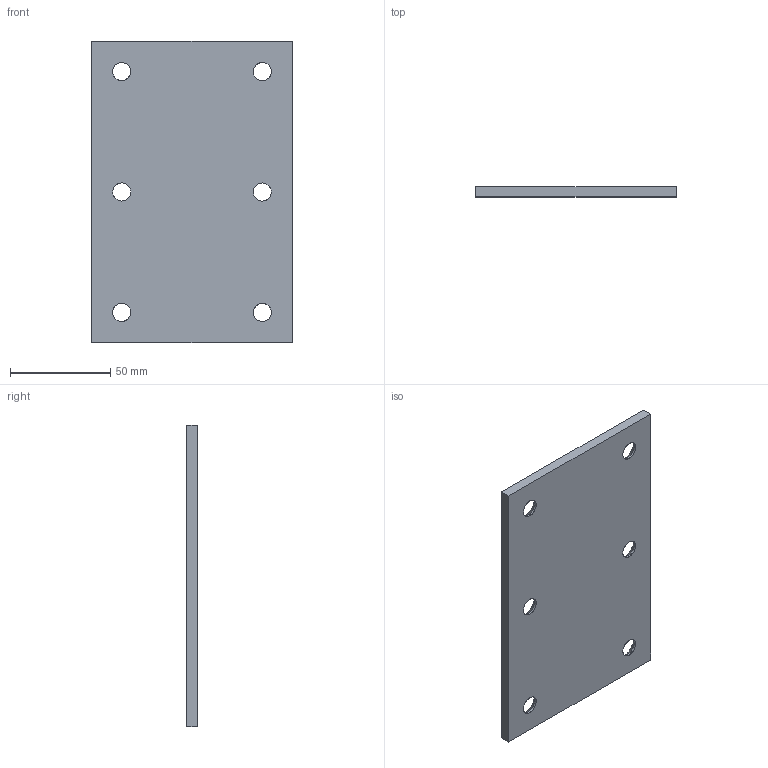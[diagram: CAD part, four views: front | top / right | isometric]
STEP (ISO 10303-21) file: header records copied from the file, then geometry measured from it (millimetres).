
FILE_DESCRIPTION(('CATIA V5 STEP Exchange'),'2;1');
FILE_NAME('C:\Users\Utente\Desktop\3D files A605\A605-100-150.stp','2020-04-13T15:46:23+00:00',('none'),('none'),'CATIA Version 5 Release 20 GA (IN-10)','CATIA V5 STEP AP203','none');
FILE_SCHEMA(('CONFIG_CONTROL_DESIGN'));
Length unit declared in the file: millimetre
Products named in the file (1): Noname
Bounding box: 100 x 5 x 150 mm (x, y, z)
Surface area: 32312.3 mm2 (no closed solid volume)
Topology: 0 solids, 18 shells, 30 faces, 120 edges, 96 vertices
Faces by surface type: cylinder 12, revolution 12, extrusion 6
Entity records: 1566 total; most frequent: CARTESIAN_POINT 577, ORIENTED_EDGE 144, DIRECTION 138, EDGE_CURVE 120, VERTEX_POINT 96, AXIS2_PLACEMENT_3D 61, VECTOR 54, CIRCLE 48
